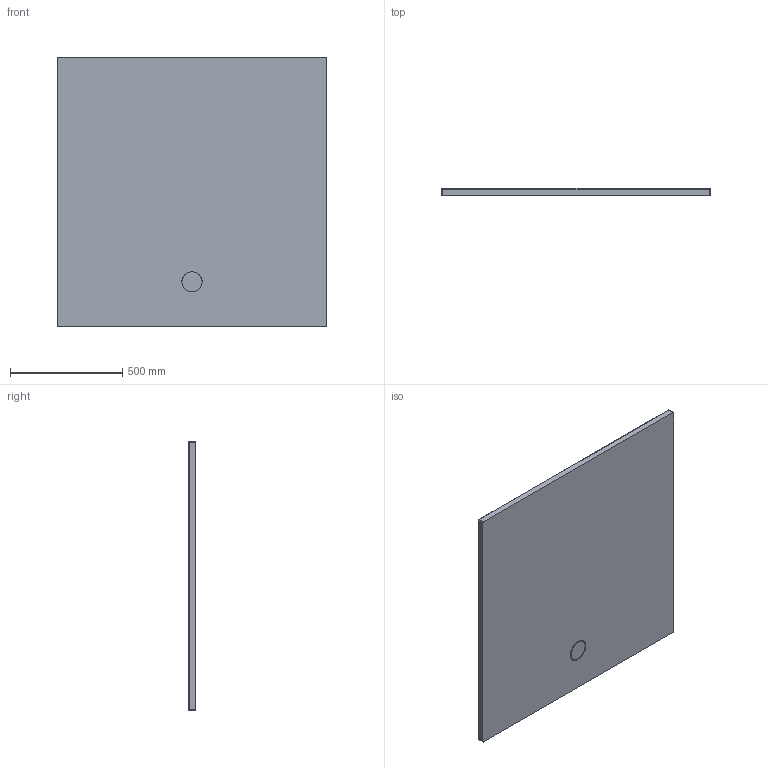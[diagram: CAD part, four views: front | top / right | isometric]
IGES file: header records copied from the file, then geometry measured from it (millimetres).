
Start section: SolidWorks IGES file using analytic representation for surfaces
Global section: file name: D:\Users\M.Szymanski\Desktop\B-M_Space\B_M_120x120x1,5.IGS; native system: SolidWorks 2011; preprocessor: SolidWorks 2011; author: M.Szymanski; date: 180216.073500; units: millimetre
Bounding box: 1200 x 30 x 1200 mm (x, y, z)
Surface area: 3036436.4 mm2 (no closed solid volume)
Topology: 0 solids, 0 shells, 61 faces, 715 edges, 712 vertices
Faces by surface type: bspline 39, revolution 22
